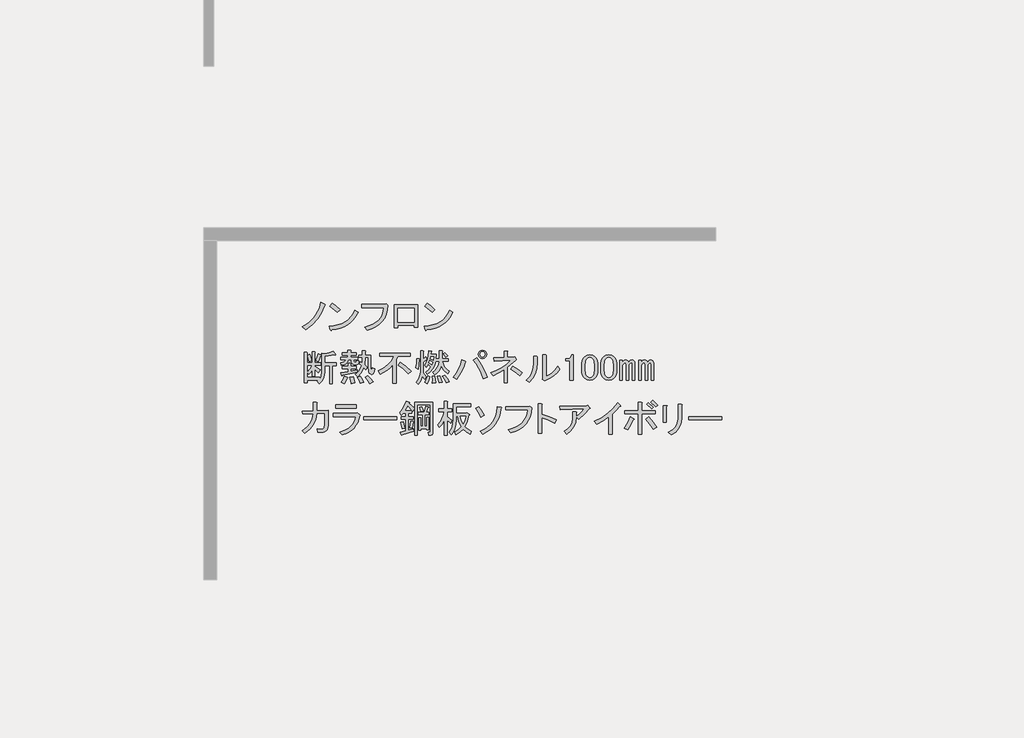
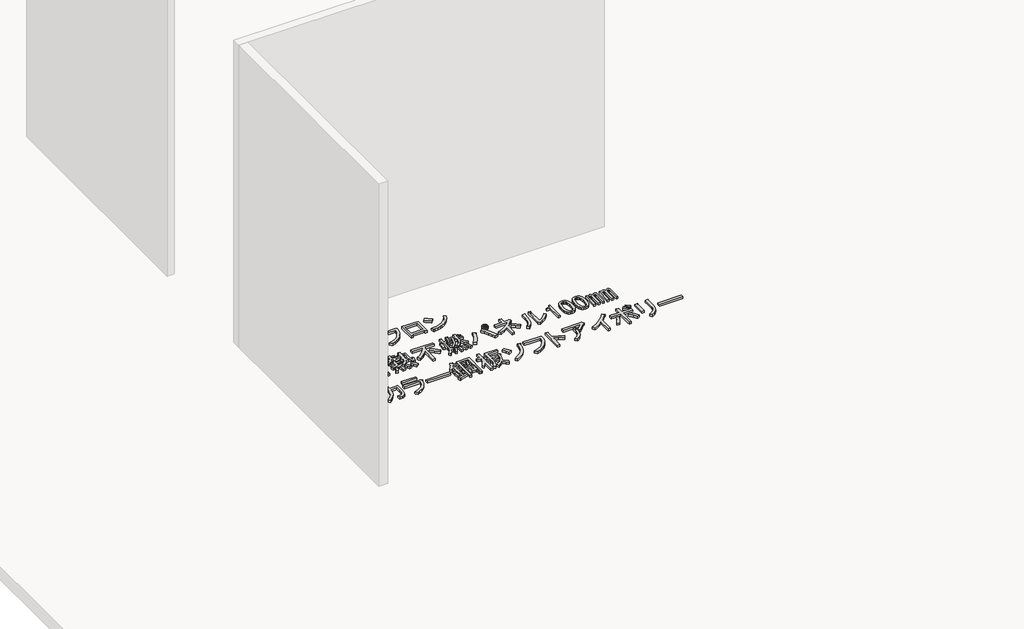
# One storey, part 5 of 117: 1 proxy.
"""IFC4 building model written with IfcOpenShell, lengths in millimetres."""

from ifc_helpers import new_model, si_unit, frame, origin, place, context, project, spatial, polyline, outline, extrude, element, save

model = new_model("IFC4")

# Units and contexts
model_context = context("Model", 3, world=origin())
ifc_project = project(units=[si_unit("LENGTHUNIT", "METRE", prefix="MILLI")], contexts=[model_context])

# Site, building, storey
site = spatial("IfcSite", under=ifc_project)
building = spatial("IfcBuilding", under=site)
storey = spatial("IfcBuildingStorey", under=building, Name="レベル 1", Elevation=500.0)

# Proxy
placement = place(None, origin())
element("IfcBuildingElementProxy", 1, Name="200㎜\u3000MS Pゴシック", ObjectType="200㎜\u3000MS Pゴシック", at=placement, inside=storey, context=model_context, shape_type="SweptSolid", body=[
    extrude(outline(polyline([(-23056.3293015, -32607.0496882), (-23081.9047498, -32666.8215225), (-23110.353844, -32712.7998566), (-23152.0217093, -32758.2034615), (-23201.1610538, -32795.560858), (-23228.7480543, -32773.7211493), (-23181.0455327, -32743.2605029), (-23141.3892195, -32704.7536481), (-23124.0036619, -32680.8305462), (-23108.6296565, -32652.7406577), (-23095.2672031, -32620.4839827), (-23083.9163019, -32584.0605212), (-23052.8809264, -32597.8540214), (-23049.7199159, -32602.4518548), (-23056.3293015, -32607.0496882)])), frame((0.0, 0.0, 500.0), z_axis=(0.0, 0.0, 1.0), x_axis=(1.0, 0.0, 0.0)), (0.0, 0.0, 1.0), 25.0),
    extrude(outline(polyline([(-22956.6022948, -32662.2236891), (-23015.2246708, -32615.0958967), (-22995.6838788, -32590.9572713), (-22968.3842429, -32610.7854279), (-22934.7625862, -32640.3839804), (-22956.6022948, -32662.2236891)])), frame((0.0, 0.0, 500.0), z_axis=(0.0, 0.0, 1.0), x_axis=(1.0, 0.0, 0.0)), (0.0, 0.0, 1.0), 25.0),
    extrude(outline(polyline([(-22794.5286672, -32662.2236891), (-22811.052131, -32691.965924), (-22830.1618761, -32717.9724192), (-22851.8579025, -32740.2431748), (-22876.1402102, -32758.7781907), (-22903.0087992, -32773.577467), (-22932.4636694, -32784.6410036), (-22964.504821, -32791.9688006), (-22999.1322539, -32795.560858), (-23004.8795456, -32803.6070664), (-23010.6268374, -32797.8597747), (-23019.8225042, -32767.9738575), (-22983.9917321, -32765.2977748), (-22951.2142088, -32758.9937141), (-22921.4899342, -32749.0616756), (-22894.8189084, -32735.5016591), (-22871.2011313, -32718.3136646), (-22850.636603, -32697.4976923), (-22833.1253234, -32673.053742), (-22818.6672926, -32644.9818138), (-22794.5286672, -32662.2236891)])), frame((0.0, 0.0, 500.0), z_axis=(0.0, 0.0, 1.0), x_axis=(1.0, 0.0, 0.0)), (0.0, 0.0, 1.0), 25.0),
    extrude(outline(polyline([(-22743.7685864, -32777.1695243), (-22709.985287, -32767.4889298), (-22680.4765359, -32755.1142922), (-22655.242333, -32740.0456116), (-22634.2826783, -32722.282888), (-22617.597572, -32701.8261214), (-22605.1870138, -32678.6753118), (-22597.0510039, -32652.8304591), (-22593.1895423, -32624.2915635), (-22765.6082951, -32624.2915635), (-22765.6082951, -32599.0034798), (-22590.8906256, -32599.0034798), (-22574.7982086, -32595.5551047), (-22562.1541668, -32607.0496882), (-22565.674383, -32643.5449909), (-22573.9361149, -32676.5919185), (-22586.9393625, -32706.1904711), (-22604.6841258, -32732.3406486), (-22627.1704048, -32755.042451), (-22654.3981995, -32774.2958784), (-22686.3675099, -32790.1009308), (-22723.078336, -32802.4576081), (-22743.7685864, -32777.1695243)])), frame((0.0, 0.0, 500.0), z_axis=(0.0, 0.0, 1.0), x_axis=(1.0, 0.0, 0.0)), (0.0, 0.0, 1.0), 25.0),
    extrude(outline(polyline([(-22329.044013, -32776.020066), (-22355.4815551, -32776.020066), (-22355.4815551, -32763.3760241), (-22483.0714321, -32763.3760241), (-22483.0714321, -32781.7673577), (-22509.5089742, -32781.7673577), (-22509.5089742, -32602.4518548), (-22329.044013, -32602.4518548), (-22329.044013, -32776.020066)]), holes=[polyline([(-22483.0714321, -32627.7399386), (-22483.0714321, -32738.0879404), (-22355.4815551, -32738.0879404), (-22355.4815551, -32627.7399386), (-22483.0714321, -32627.7399386)])]), frame((0.0, 0.0, 500.0), z_axis=(0.0, 0.0, 1.0), x_axis=(1.0, 0.0, 0.0)), (0.0, 0.0, 1.0), 25.0),
    extrude(outline(polyline([(-22052.9900951, -32662.2236891), (-22069.5135589, -32691.965924), (-22088.623304, -32717.9724192), (-22110.3193304, -32740.2431748), (-22134.6016381, -32758.7781907), (-22161.4702271, -32773.577467), (-22190.9250974, -32784.6410036), (-22222.9662489, -32791.9688006), (-22257.5936818, -32795.560858), (-22263.3409736, -32803.6070664), (-22269.0882653, -32797.8597747), (-22278.2839321, -32767.9738575), (-22242.4531601, -32765.2977748), (-22209.6756367, -32758.9937141), (-22179.9513622, -32749.0616756), (-22153.2803363, -32735.5016591), (-22129.6625593, -32718.3136646), (-22109.0980309, -32697.4976923), (-22091.5867514, -32673.053742), (-22077.1287205, -32644.9818138), (-22052.9900951, -32662.2236891)])), frame((0.0, 0.0, 500.0), z_axis=(0.0, 0.0, 1.0), x_axis=(1.0, 0.0, 0.0)), (0.0, 0.0, 1.0), 25.0),
    extrude(outline(polyline([(-22215.0637228, -32662.2236891), (-22273.6860987, -32615.0958967), (-22254.1453067, -32590.9572713), (-22226.8456709, -32610.7854279), (-22193.2240141, -32640.3839804), (-22215.0637228, -32662.2236891)])), frame((0.0, 0.0, 500.0), z_axis=(0.0, 0.0, 1.0), x_axis=(1.0, 0.0, 0.0)), (0.0, 0.0, 1.0), 25.0),
    extrude(outline(polyline([(-23122.9978859, -33039.2345221), (-23105.7560106, -32986.3594379), (-23085.0657603, -32992.1067296), (-23083.3415727, -32995.2677401), (-23087.364677, -32997.8540214), (-23104.6065523, -33046.1312722), (-23122.9978859, -33039.2345221)])), frame((0.0, 0.0, 500.0), z_axis=(0.0, 0.0, 1.0), x_axis=(1.0, 0.0, 0.0)), (0.0, 0.0, 1.0), 25.0),
    extrude(outline(polyline([(-22968.9704667, -32990.9572713), (-22970.6946542, -32995.5551047), (-22978.1661335, -32993.256188), (-23055.1798431, -33005.9002299), (-23055.1798431, -33055.326939), (-22963.2231749, -33055.326939), (-22963.2231749, -33077.1666477), (-22994.2585505, -33077.1666477), (-22994.2585505, -33217.4005666), (-23017.2477175, -33217.4005666), (-23017.2477175, -33077.1666477), (-23055.1798431, -33077.1666477), (-23055.1798431, -33126.5933568), (-23057.7661244, -33154.3958807), (-23065.5249683, -33179.1810764), (-23078.4563747, -33200.948944), (-23096.5603438, -33219.6994833), (-23113.8022191, -33200.1586914), (-23103.4570939, -33190.9630245), (-23193.1148454, -33190.9630245), (-23193.1148454, -33212.8027332), (-23216.1040124, -33212.8027332), (-23216.1040124, -32973.715396), (-23194.2643037, -32973.715396), (-23189.3791057, -32976.0143127), (-23193.1148454, -32980.6121461), (-23193.1148454, -33056.4763974), (-23150.5848863, -33056.4763974), (-23150.5848863, -32969.1175626), (-23132.1935527, -32969.1175626), (-23127.3083547, -32971.4164793), (-23131.0440943, -32976.0143127), (-23131.0440943, -33056.4763974), (-23087.364677, -33056.4763974), (-23087.364677, -33074.867731), (-23131.0440943, -33074.867731), (-23131.0440943, -33084.0633978), (-23090.813052, -33110.5009399), (-23104.6065523, -33132.3406486), (-23131.0440943, -33105.9031065), (-23131.0440943, -33158.7781907), (-23150.5848863, -33158.7781907), (-23150.5848863, -33110.5009399), (-23163.8036574, -33130.3290965), (-23178.1718868, -33146.1341488), (-23190.8159287, -33127.7428152), (-23168.97622, -33103.6041898), (-23151.7343447, -33074.867731), (-23193.1148454, -33074.867731), (-23193.1148454, -33169.1233159), (-23095.4108854, -33169.1233159), (-23095.4108854, -33182.9168161), (-23082.479479, -33158.7781907), (-23078.1690102, -33125.4438985), (-23078.1690102, -32980.6121461), (-23056.3293015, -32986.3594379), (-23020.1213634, -32978.8879586), (-22989.660717, -32965.6691875), (-22968.9704667, -32990.9572713)])), frame((0.0, 0.0, 500.0), z_axis=(0.0, 0.0, 1.0), x_axis=(1.0, 0.0, 0.0)), (0.0, 0.0, 1.0), 25.0),
    extrude(outline(polyline([(-23177.0224284, -33047.2807305), (-23189.6664703, -32996.7045631), (-23170.1256783, -32989.8078129), (-23162.3668344, -33013.9464383), (-23157.4816364, -33040.3839804), (-23177.0224284, -33047.2807305)])), frame((0.0, 0.0, 500.0), z_axis=(0.0, 0.0, 1.0), x_axis=(1.0, 0.0, 0.0)), (0.0, 0.0, 1.0), 25.0),
    extrude(outline(polyline([(-22878.1632569, -33167.9738575), (-22874.7148818, -33172.8590555), (-22880.4621736, -33176.020066), (-22890.2325696, -33201.5955143), (-22901.1524239, -33220.8489417), (-22924.141591, -33209.3543582), (-22911.4975491, -33185.790462), (-22901.1524239, -33158.7781907), (-22878.1632569, -33167.9738575)])), frame((0.0, 0.0, 500.0), z_axis=(0.0, 0.0, 1.0), x_axis=(1.0, 0.0, 0.0)), (0.0, 0.0, 1.0), 25.0),
    extrude(outline(polyline([(-22833.3343812, -33163.3760241), (-22823.2766206, -33190.67566), (-22818.3914226, -33212.8027332), (-22847.1278814, -33218.550025), (-22849.7141627, -33196.9976809), (-22857.4730066, -33166.8243992), (-22833.3343812, -33163.3760241)])), frame((0.0, 0.0, 500.0), z_axis=(0.0, 0.0, 1.0), x_axis=(1.0, 0.0, 0.0)), (0.0, 0.0, 1.0), 25.0),
    extrude(outline(polyline([(-22718.388546, -33157.6287323), (-22693.6751914, -33178.8937119), (-22674.7091286, -33203.6070664), (-22701.1466707, -33218.550025), (-22720.4000981, -33188.9514724), (-22739.0787963, -33169.1233159), (-22718.388546, -33157.6287323)])), frame((0.0, 0.0, 500.0), z_axis=(0.0, 0.0, 1.0), x_axis=(1.0, 0.0, 0.0)), (0.0, 0.0, 1.0), 25.0),
    extrude(outline(polyline([(-22777.0109219, -33216.2511083), (-22785.344495, -33191.5377537), (-22798.8506306, -33170.2727742), (-22778.1603803, -33162.2265657), (-22761.2058696, -33183.7789098), (-22749.4239215, -33207.0554415), (-22777.0109219, -33216.2511083)])), frame((0.0, 0.0, 500.0), z_axis=(0.0, 0.0, 1.0), x_axis=(1.0, 0.0, 0.0)), (0.0, 0.0, 1.0), 25.0),
    extrude(outline(polyline([(-22916.0953825, -33153.0308989), (-22918.1069346, -33157.9160969), (-22921.8426743, -33156.479274), (-22927.589966, -33132.3406486), (-22872.4159651, -33124.2944401), (-22872.4159651, -33101.3052731), (-22916.0953825, -33101.3052731), (-22916.0953825, -33082.9139395), (-22872.4159651, -33082.9139395), (-22872.4159651, -33059.9247724), (-22854.0246315, -33059.9247724), (-22849.1394335, -33062.2236891), (-22852.8751732, -33066.8215225), (-22852.8751732, -33082.9139395), (-22808.0462974, -33082.9139395), (-22808.0462974, -33101.3052731), (-22852.8751732, -33101.3052731), (-22852.8751732, -33120.8460651), (-22802.2990057, -33111.6503983), (-22802.2990057, -33127.7428152), (-22916.0953825, -33153.0308989)])), frame((0.0, 0.0, 500.0), z_axis=(0.0, 0.0, 1.0), x_axis=(1.0, 0.0, 0.0)), (0.0, 0.0, 1.0), 25.0),
    extrude(outline(polyline([(-22845.978423, -33031.1883136), (-22871.2665068, -33031.1883136), (-22875.8643402, -33048.6457123), (-22886.2094654, -33061.9363245), (-22902.3018823, -33071.0601502), (-22924.141591, -33076.0171893), (-22928.7394244, -33056.4763974), (-22903.4513406, -33047.8554597), (-22895.9798614, -33040.5276627), (-22891.9567571, -33031.1883136), (-22927.589966, -33031.1883136), (-22927.589966, -33012.79698), (-22873.5654235, -33012.79698), (-22873.5654235, -32995.5551047), (-22917.2448409, -32995.5551047), (-22917.2448409, -32977.1637711), (-22873.5654235, -32977.1637711), (-22873.5654235, -32958.7724374), (-22851.7257148, -32958.7724374), (-22846.8405168, -32961.0713541), (-22850.5762564, -32965.6691875), (-22850.5762564, -32977.1637711), (-22808.0462974, -32977.1637711), (-22808.0462974, -32995.5551047), (-22850.5762564, -32995.5551047), (-22850.5762564, -33012.79698), (-22797.7011723, -33012.79698), (-22797.7011723, -33031.1883136), (-22826.4376311, -33031.1883136), (-22826.4376311, -33043.8323555), (-22825.0008081, -33049.0049181), (-22820.6903393, -33050.7291056), (-22810.3452141, -33050.7291056), (-22806.6094745, -33047.5680951), (-22806.8968391, -33038.0850637), (-22787.3560471, -33040.3839804), (-22790.229693, -33061.9363245), (-22795.5459378, -33067.3244106), (-22803.448464, -33069.1204392), (-22827.5870894, -33069.1204392), (-22841.3805896, -33064.2352412), (-22845.978423, -33049.5796472), (-22845.978423, -33031.1883136)])), frame((0.0, 0.0, 500.0), z_axis=(0.0, 0.0, 1.0), x_axis=(1.0, 0.0, 0.0)), (0.0, 0.0, 1.0), 25.0),
    extrude(outline(polyline([(-22714.9401709, -33013.9464383), (-22736.7798796, -33013.9464383), (-22741.377713, -33071.4193559), (-22721.836921, -33089.8106896), (-22732.1820462, -33111.6503983), (-22748.2744631, -33095.5579813), (-22767.5278905, -33133.2027424), (-22797.7011723, -33165.6749408), (-22814.9430475, -33144.9846905), (-22799.8564067, -33133.0590601), (-22786.7813179, -33117.9724192), (-22775.7177813, -33099.7247679), (-22766.6657967, -33078.316106), (-22783.907672, -33063.3731475), (-22775.8614636, -33046.1312722), (-22762.0679633, -33056.4763974), (-22759.7690466, -33013.9464383), (-22787.3560471, -33013.9464383), (-22787.3560471, -32995.5551047), (-22759.7690466, -32995.5551047), (-22759.7690466, -32961.0713541), (-22737.9293379, -32961.0713541), (-22733.04414, -32963.3702708), (-22736.7798796, -32967.9681043), (-22736.7798796, -32995.5551047), (-22695.3993789, -32995.5551047), (-22695.3993789, -33092.1096063), (-22691.9510039, -33116.2482317), (-22688.7181523, -33118.2597838), (-22685.9163475, -33115.0987733), (-22681.6058787, -33093.2590646), (-22662.0650867, -33100.1558147), (-22666.591079, -33126.9525626), (-22674.421764, -33142.9731384), (-22685.5571418, -33148.2175421), (-22699.9972123, -33142.6857738), (-22706.5347567, -33135.3579768), (-22711.2044313, -33123.719711), (-22714.9401709, -33087.5117729), (-22714.9401709, -33013.9464383)])), frame((0.0, 0.0, 500.0), z_axis=(0.0, 0.0, 1.0), x_axis=(1.0, 0.0, 0.0)), (0.0, 0.0, 1.0), 25.0),
    extrude(outline(polyline([(-22626.4318778, -32980.6121461), (-22385.0456239, -32980.6121461), (-22385.0456239, -33005.9002299), (-22485.0485005, -33005.9002299), (-22495.3936257, -33030.0388553), (-22495.3936257, -33216.2511083), (-22521.8311678, -33216.2511083), (-22521.8311678, -33069.1204392), (-22542.6651004, -33092.3969709), (-22566.0853143, -33112.7998566), (-22592.0918095, -33130.3290965), (-22620.684586, -33144.9846905), (-22636.777003, -33118.5471484), (-22597.192531, -33098.1442626), (-22563.499033, -33072.5688143), (-22535.6965091, -33041.8208034), (-22513.7849593, -33005.9002299), (-22626.4318778, -33005.9002299), (-22626.4318778, -32980.6121461)])), frame((0.0, 0.0, 500.0), z_axis=(0.0, 0.0, 1.0), x_axis=(1.0, 0.0, 0.0)), (0.0, 0.0, 1.0), 25.0),
    extrude(outline(polyline([(-22399.9885824, -33141.5363154), (-22439.0701664, -33103.3168252), (-22480.4506671, -33073.7182726), (-22464.3582502, -33053.0280223), (-22420.6788328, -33081.1897519), (-22379.2983321, -33119.6966067), (-22399.9885824, -33141.5363154)])), frame((0.0, 0.0, 500.0), z_axis=(0.0, 0.0, 1.0), x_axis=(1.0, 0.0, 0.0)), (0.0, 0.0, 1.0), 25.0),
    extrude(outline(polyline([(-22232.167663, -33163.3760241), (-22240.7886007, -33193.8366704), (-22255.1568301, -33220.8489417), (-22274.6976221, -33208.2048998), (-22260.6167573, -33183.4915453), (-22250.5589967, -33155.3298156), (-22232.167663, -33163.3760241)])), frame((0.0, 0.0, 500.0), z_axis=(0.0, 0.0, 1.0), x_axis=(1.0, 0.0, 0.0)), (0.0, 0.0, 1.0), 25.0),
    extrude(outline(polyline([(-22317.2275811, -33025.4410219), (-22312.6297477, -33027.7399386), (-22317.2275811, -33032.337772), (-22318.3770395, -33071.9940851), (-22324.1243312, -33105.9031065), (-22342.5156648, -33093.2590646), (-22336.7683731, -33058.7753141), (-22335.6189147, -33021.9926468), (-22317.2275811, -33025.4410219)])), frame((0.0, 0.0, 500.0), z_axis=(0.0, 0.0, 1.0), x_axis=(1.0, 0.0, 0.0)), (0.0, 0.0, 1.0), 25.0),
    extrude(outline(polyline([(-22265.5019553, -33007.0496882), (-22256.3062884, -33024.2915635), (-22254.8694655, -33030.3262199), (-22259.7546635, -33030.0388553), (-22286.1922056, -33050.7291056), (-22286.1922056, -33134.6395653), (-22272.3987054, -33146.9962426), (-22260.9041219, -33163.3760241), (-22273.5481637, -33184.0662744), (-22291.9394974, -33158.7781907), (-22303.7214455, -33194.6987642), (-22325.2737896, -33224.2973168), (-22340.2167481, -33205.9059831), (-22325.1301073, -33187.1554438), (-22314.3539352, -33166.5370346), (-22307.888232, -33144.0507556), (-22305.7329976, -33119.6966067), (-22305.7329976, -32962.2208125), (-22287.3416639, -32962.2208125), (-22282.456466, -32964.5197292), (-22286.1922056, -32969.1175626), (-22286.1922056, -33027.7399386), (-22265.5019553, -33007.0496882)])), frame((0.0, 0.0, 500.0), z_axis=(0.0, 0.0, 1.0), x_axis=(1.0, 0.0, 0.0)), (0.0, 0.0, 1.0), 25.0),
    extrude(outline(polyline([(-22114.9229111, -32976.0143127), (-22093.0832025, -33000.1529381), (-22110.3250777, -33011.6475216), (-22116.9344633, -33000.1529381), (-22129.8658697, -32986.3594379), (-22114.9229111, -32976.0143127)])), frame((0.0, 0.0, 500.0), z_axis=(0.0, 0.0, 1.0), x_axis=(1.0, 0.0, 0.0)), (0.0, 0.0, 1.0), 25.0),
    extrude(outline(polyline([(-22104.577786, -33212.8027332), (-22117.796557, -33184.6410036), (-22134.4637031, -33159.927649), (-22116.0723695, -33151.8814406), (-22097.1063067, -33174.8706076), (-22081.5886189, -33202.4576081), (-22104.577786, -33212.8027332)])), frame((0.0, 0.0, 500.0), z_axis=(0.0, 0.0, 1.0), x_axis=(1.0, 0.0, 0.0)), (0.0, 0.0, 1.0), 25.0),
    extrude(outline(polyline([(-22154.0044951, -33157.6287323), (-22135.6131615, -33207.0554415), (-22159.7517869, -33211.6532749), (-22173.5452871, -33161.0771074), (-22154.0044951, -33157.6287323)])), frame((0.0, 0.0, 500.0), z_axis=(0.0, 0.0, 1.0), x_axis=(1.0, 0.0, 0.0)), (0.0, 0.0, 1.0), 25.0),
    extrude(outline(polyline([(-22212.6268711, -33215.1016499), (-22212.0521419, -33188.0893787), (-22214.9257878, -33159.927649), (-22195.3849958, -33158.7781907), (-22189.0629748, -33184.9283682), (-22188.4882457, -33212.8027332), (-22212.6268711, -33215.1016499)])), frame((0.0, 0.0, 500.0), z_axis=(0.0, 0.0, 1.0), x_axis=(1.0, 0.0, 0.0)), (0.0, 0.0, 1.0), 25.0),
    extrude(outline(polyline([(-22093.0832025, -33142.6857738), (-22123.8312134, -33112.2251274), (-22144.8088283, -33078.316106), (-22153.2142425, -33100.4431793), (-22164.6369849, -33119.6966067), (-22179.0770554, -33136.0763882), (-22196.5344541, -33149.5825239), (-22210.3279544, -33131.1911902), (-22189.4940217, -33112.2969686), (-22174.1200163, -33091.2475125), (-22164.205938, -33068.042822), (-22159.7517869, -33042.6828971), (-22188.4882457, -33042.6828971), (-22196.462613, -33073.2872258), (-22210.0405898, -33100.7305439), (-22229.222176, -33125.0128516), (-22254.0073717, -33146.1341488), (-22266.6514136, -33130.0417319), (-22240.7886007, -33108.4893878), (-22225.2709129, -33087.5117729), (-22247.1106216, -33067.9709809), (-22260.9041219, -33088.6612312), (-22274.6976221, -33073.7182726), (-22262.2691036, -33054.6803687), (-22252.5705488, -33029.7514907), (-22245.6019575, -32998.9316386), (-22241.3633299, -32962.2208125), (-22220.6730795, -32964.5197292), (-22217.2247045, -32967.1060105), (-22222.9719962, -32970.267021), (-22225.2709129, -32988.6583546), (-22181.5914956, -32988.6583546), (-22185.0398706, -33024.2915635), (-22159.7517869, -33024.2915635), (-22159.7517869, -32962.2208125), (-22137.9120782, -32962.2208125), (-22133.0268802, -32964.5197292), (-22136.7626198, -32969.1175626), (-22136.7626198, -33024.2915635), (-22087.3359107, -33024.2915635), (-22087.3359107, -33042.6828971), (-22136.7626198, -33042.6828971), (-22130.2250755, -33064.4507647), (-22118.6586508, -33084.9254916), (-22102.0633458, -33104.1070778), (-22080.4391606, -33121.9955234), (-22093.0832025, -33142.6857738)]), holes=[polyline([(-22217.2247045, -33072.5688143), (-22210.3279544, -33053.0280223), (-22235.6160381, -33036.9356054), (-22241.3633299, -33054.1774807), (-22217.2247045, -33072.5688143)]), polyline([(-22227.5698296, -33007.0496882), (-22231.0182047, -33023.1421052), (-22205.730121, -33036.9356054), (-22201.1322875, -33007.0496882), (-22227.5698296, -33007.0496882)])]), frame((0.0, 0.0, 500.0), z_axis=(0.0, 0.0, 1.0), x_axis=(1.0, 0.0, 0.0)), (0.0, 0.0, 1.0), 25.0),
    extrude(outline(polyline([(-21867.7893655, -33016.245355), (-21841.1362999, -33052.9561812), (-21818.6500209, -33090.6727833), (-21800.3305284, -33129.3951616), (-21786.1778225, -33169.1233159), (-21817.213198, -33179.468441), (-21832.6590446, -33136.3637528), (-21850.2601256, -33097.856898), (-21870.016441, -33063.9478766), (-21891.9279908, -33034.6366887), (-21867.7893655, -33016.245355)])), frame((0.0, 0.0, 500.0), z_axis=(0.0, 0.0, 1.0), x_axis=(1.0, 0.0, 0.0)), (0.0, 0.0, 1.0), 25.0),
    extrude(outline(polyline([(-21955.1482002, -33042.6828971), (-21951.125096, -33048.1428243), (-21957.4471169, -33053.0280223), (-21969.3727473, -33088.4457078), (-21984.4593882, -33122.282888), (-22002.7070395, -33154.539563), (-22024.1157013, -33185.2157328), (-22050.5532434, -33167.9738575), (-22027.3485529, -33136.5074351), (-22008.310649, -33103.0294606), (-21993.4395316, -33067.539934), (-21982.7352007, -33030.0388553), (-21955.1482002, -33042.6828971)])), frame((0.0, 0.0, 500.0), z_axis=(0.0, 0.0, 1.0), x_axis=(1.0, 0.0, 0.0)), (0.0, 0.0, 1.0), 25.0),
    extrude(outline(polyline([(-21821.8110314, -33021.9926468), (-21834.4550732, -33019.6937301), (-21844.8001984, -33012.79698), (-21851.6969485, -33002.4518548), (-21853.9958652, -32989.8078129), (-21851.6969485, -32977.1637711), (-21844.8001984, -32966.8186459), (-21834.4550732, -32959.9218958), (-21821.8110314, -32957.6229791), (-21809.1669895, -32959.9218958), (-21798.8218643, -32966.8186459), (-21791.9251142, -32977.1637711), (-21789.6261975, -32989.8078129), (-21791.9251142, -33002.4518548), (-21798.8218643, -33012.79698), (-21809.1669895, -33019.6937301), (-21821.8110314, -33021.9926468)]), holes=[polyline([(-21821.8110314, -33010.4980633), (-21813.4774583, -33009.0612403), (-21806.8680728, -33004.7507715), (-21802.557604, -32998.141386), (-21801.120781, -32989.8078129), (-21802.557604, -32981.4742399), (-21806.8680728, -32974.8648544), (-21813.4774583, -32970.5543855), (-21821.8110314, -32969.1175626), (-21830.1446044, -32970.5543855), (-21836.7539899, -32974.8648544), (-21841.0644588, -32981.4742399), (-21842.5012817, -32989.8078129), (-21841.0644588, -32998.141386), (-21836.7539899, -33004.7507715), (-21830.1446044, -33009.0612403), (-21821.8110314, -33010.4980633)])]), frame((0.0, 0.0, 500.0), z_axis=(0.0, 0.0, 1.0), x_axis=(1.0, 0.0, 0.0)), (0.0, 0.0, 1.0), 25.0),
    extrude(outline(polyline([(-21578.1258607, -33011.6475216), (-21571.2291106, -33009.3486049), (-21558.5850688, -33026.5904802), (-21557.4356104, -33032.6251366), (-21563.1829022, -33034.6366887), (-21626.4031115, -33090.9601479), (-21626.4031115, -33211.6532749), (-21652.8406536, -33211.6532749), (-21652.8406536, -33109.3514816), (-21693.0716959, -33133.4901069), (-21737.9005717, -33155.3298156), (-21757.4413637, -33134.6395653), (-21711.8940765, -33115.1706145), (-21670.6572581, -33092.3969709), (-21633.7309085, -33066.3186345), (-21601.1150278, -33036.9356054), (-21731.0038216, -33042.6828971), (-21734.4521966, -33017.3948134), (-21652.8406536, -33015.0958967), (-21652.8406536, -32963.3702708), (-21629.8514866, -32963.3702708), (-21623.8168302, -32966.8186459), (-21626.4031115, -32972.5659377), (-21626.4031115, -33013.9464383), (-21578.1258607, -33011.6475216)])), frame((0.0, 0.0, 500.0), z_axis=(0.0, 0.0, 1.0), x_axis=(1.0, 0.0, 0.0)), (0.0, 0.0, 1.0), 25.0),
    extrude(outline(polyline([(-21532.1475267, -33155.3298156), (-21569.2175585, -33126.0186277), (-21602.2644861, -33104.7536481), (-21585.0226108, -33082.9139395), (-21546.2283915, -33106.1904711), (-21512.6067347, -33132.3406486), (-21532.1475267, -33155.3298156)])), frame((0.0, 0.0, 500.0), z_axis=(0.0, 0.0, 1.0), x_axis=(1.0, 0.0, 0.0)), (0.0, 0.0, 1.0), 25.0),
    extrude(outline(polyline([(-21325.1530666, -33162.2265657), (-21300.3678709, -33150.0135708), (-21276.5884512, -33132.9153778), (-21253.8148076, -33110.9319868), (-21232.0469401, -33084.0633978), (-21215.9545232, -33105.9031065), (-21239.2310548, -33133.7056304), (-21265.3812323, -33157.3413678), (-21294.4050557, -33176.8103186), (-21326.302525, -33192.1124829), (-21335.4981918, -33196.7103163), (-21353.8895254, -33182.9168161), (-21351.5906087, -33177.1695243), (-21351.5906087, -32992.1067296), (-21327.4519833, -32992.1067296), (-21321.7046916, -32995.5551047), (-21325.1530666, -33001.3023965), (-21325.1530666, -33162.2265657)])), frame((0.0, 0.0, 500.0), z_axis=(0.0, 0.0, 1.0), x_axis=(1.0, 0.0, 0.0)), (0.0, 0.0, 1.0), 25.0),
    extrude(outline(polyline([(-21479.1804858, -33193.2619413), (-21454.0360843, -33164.0225944), (-21436.0757976, -33131.4785548), (-21425.2996255, -33095.6298225), (-21421.7075682, -33056.4763974), (-21421.7075682, -33004.7507715), (-21397.5689428, -33004.7507715), (-21391.821651, -33008.1991466), (-21395.2700261, -33013.9464383), (-21395.2700261, -33055.326939), (-21399.0776069, -33101.0897496), (-21410.5003493, -33141.82368), (-21429.5382532, -33177.5287301), (-21456.1913188, -33208.2048998), (-21479.1804858, -33193.2619413)])), frame((0.0, 0.0, 500.0), z_axis=(0.0, 0.0, 1.0), x_axis=(1.0, 0.0, 0.0)), (0.0, 0.0, 1.0), 25.0),
    extrude(outline(polyline([(-21136.6418969, -33015.0958967), (-21128.5956884, -33004.1760423), (-21125.1473134, -32992.1067296), (-21111.3538131, -32992.1067296), (-21111.3538131, -33190.9630245), (-21137.7913552, -33190.9630245), (-21137.7913552, -33038.0850637), (-21172.2751058, -33038.0850637), (-21172.2751058, -33024.2915635), (-21161.9299806, -33024.2915635), (-21147.5617512, -33021.9926468), (-21136.6418969, -33015.0958967)])), frame((0.0, 0.0, 500.0), z_axis=(0.0, 0.0, 1.0), x_axis=(1.0, 0.0, 0.0)), (0.0, 0.0, 1.0), 25.0),
    extrude(outline(polyline([(-21045.8346871, -33081.7644811), (-21044.3978641, -33058.2005849), (-21040.0873953, -33038.0850637), (-21032.9032806, -33021.4179176), (-21022.84552, -33008.1991466), (-21004.741551, -32996.1298339), (-20982.6144777, -32992.1067296), (-20960.4874044, -32996.1298339), (-20942.3834354, -33008.1991466), (-20932.3256748, -33021.4179176), (-20925.1415601, -33038.0850637), (-20920.8310913, -33058.2005849), (-20919.3942683, -33081.7644811), (-20919.3942683, -33104.7536481), (-20920.8310913, -33127.8146563), (-20925.1415601, -33147.5709718), (-20932.3256748, -33164.0225944), (-20942.3834354, -33177.1695243), (-20960.4874044, -33189.238837), (-20982.6144777, -33193.2619413), (-21004.741551, -33189.238837), (-21022.84552, -33177.1695243), (-21032.9032806, -33164.0225944), (-21040.0873953, -33147.5709718), (-21044.3978641, -33127.8146563), (-21045.8346871, -33104.7536481), (-21045.8346871, -33081.7644811)]), holes=[polyline([(-20982.6144777, -33013.9464383), (-20993.5343321, -33016.245355), (-21003.304728, -33023.1421052), (-21009.8422724, -33032.2659308), (-21014.511947, -33044.6944493), (-21018.2476866, -33079.4655644), (-21018.2476866, -33105.9031065), (-21014.2245824, -33140.0994925), (-21009.1957021, -33152.6716932), (-21002.1552697, -33162.2265657), (-20992.6722383, -33169.1233159), (-20982.6144777, -33171.4222326), (-20971.6946234, -33169.1233159), (-20961.9242274, -33162.2265657), (-20955.386683, -33153.1027401), (-20950.7170084, -33140.6742216), (-20946.9812688, -33105.9031065), (-20946.9812688, -33079.4655644), (-20950.7170084, -33044.6944493), (-20955.386683, -33032.2659308), (-20961.9242274, -33023.1421052), (-20971.6946234, -33016.245355), (-20982.6144777, -33013.9464383)])]), frame((0.0, 0.0, 500.0), z_axis=(0.0, 0.0, 1.0), x_axis=(1.0, 0.0, 0.0)), (0.0, 0.0, 1.0), 25.0),
    extrude(outline(polyline([(-20898.704018, -33081.7644811), (-20897.2671951, -33058.2005849), (-20892.9567263, -33038.0850637), (-20885.7726116, -33021.4179176), (-20875.714851, -33008.1991466), (-20857.6108819, -32996.1298339), (-20835.4838086, -32992.1067296), (-20813.3567354, -32996.1298339), (-20795.2527663, -33008.1991466), (-20785.1950057, -33021.4179176), (-20778.010891, -33038.0850637), (-20773.7004222, -33058.2005849), (-20772.2635993, -33081.7644811), (-20772.2635993, -33104.7536481), (-20773.7004222, -33127.8146563), (-20778.010891, -33147.5709718), (-20785.1950057, -33164.0225944), (-20795.2527663, -33177.1695243), (-20813.3567354, -33189.238837), (-20835.4838086, -33193.2619413), (-20857.6108819, -33189.238837), (-20875.714851, -33177.1695243), (-20885.7726116, -33164.0225944), (-20892.9567263, -33147.5709718), (-20897.2671951, -33127.8146563), (-20898.704018, -33104.7536481), (-20898.704018, -33081.7644811)]), holes=[polyline([(-20835.4838086, -33013.9464383), (-20846.403663, -33016.245355), (-20856.174059, -33023.1421052), (-20862.7116034, -33032.2659308), (-20867.3812779, -33044.6944493), (-20871.1170176, -33079.4655644), (-20871.1170176, -33105.9031065), (-20867.0939133, -33140.0994925), (-20862.065033, -33152.6716932), (-20855.0246006, -33162.2265657), (-20845.5415692, -33169.1233159), (-20835.4838086, -33171.4222326), (-20824.5639543, -33169.1233159), (-20814.7935583, -33162.2265657), (-20808.2560139, -33153.1027401), (-20803.5863394, -33140.6742216), (-20799.8505997, -33105.9031065), (-20799.8505997, -33079.4655644), (-20803.5863394, -33044.6944493), (-20808.2560139, -33032.2659308), (-20814.7935583, -33023.1421052), (-20824.5639543, -33016.245355), (-20835.4838086, -33013.9464383)])]), frame((0.0, 0.0, 500.0), z_axis=(0.0, 0.0, 1.0), x_axis=(1.0, 0.0, 0.0)), (0.0, 0.0, 1.0), 25.0),
    extrude(outline(polyline([(-20727.4347236, -33193.2619413), (-20746.9755155, -33193.2619413), (-20746.9755155, -33035.786147), (-20727.4347236, -33035.786147), (-20727.4347236, -33053.0280223), (-20715.3654109, -33037.5103346), (-20702.1466398, -33032.337772), (-20692.950973, -33033.7745949), (-20686.0542229, -33038.0850637), (-20679.1574728, -33051.878564), (-20666.2260663, -33037.22297), (-20652.7199307, -33032.337772), (-20644.3863576, -33033.7745949), (-20637.7769721, -33038.0850637), (-20632.6044095, -33046.7060014), (-20630.880222, -33058.7753141), (-20630.880222, -33193.2619413), (-20650.421014, -33193.2619413), (-20650.421014, -33069.1204392), (-20653.0072953, -33059.6374078), (-20660.7661391, -33056.4763974), (-20671.1112643, -33061.0742308), (-20677.1459207, -33069.6951684), (-20679.1574728, -33079.4655644), (-20679.1574728, -33193.2619413), (-20698.6982648, -33193.2619413), (-20698.6982648, -33069.1204392), (-20701.284546, -33059.6374078), (-20709.0433899, -33056.4763974), (-20719.3885151, -33061.0742308), (-20725.4231714, -33069.6951684), (-20727.4347236, -33079.4655644), (-20727.4347236, -33193.2619413)])), frame((0.0, 0.0, 500.0), z_axis=(0.0, 0.0, 1.0), x_axis=(1.0, 0.0, 0.0)), (0.0, 0.0, 1.0), 25.0),
    extrude(outline(polyline([(-20505.5892616, -33032.337772), (-20497.2556886, -33033.7745949), (-20490.646303, -33038.0850637), (-20485.4737405, -33046.7060014), (-20483.7495529, -33058.7753141), (-20483.7495529, -33193.2619413), (-20503.2903449, -33193.2619413), (-20503.2903449, -33069.1204392), (-20505.8766262, -33059.6374078), (-20513.6354701, -33056.4763974), (-20523.9805952, -33061.0742308), (-20530.0152516, -33069.6951684), (-20532.0268037, -33079.4655644), (-20532.0268037, -33193.2619413), (-20551.5675957, -33193.2619413), (-20551.5675957, -33069.1204392), (-20554.153877, -33059.6374078), (-20561.9127209, -33056.4763974), (-20572.257846, -33061.0742308), (-20578.2925024, -33069.6951684), (-20580.3040545, -33079.4655644), (-20580.3040545, -33193.2619413), (-20599.8448465, -33193.2619413), (-20599.8448465, -33035.786147), (-20580.3040545, -33035.786147), (-20580.3040545, -33053.0280223), (-20568.2347418, -33037.5103346), (-20555.0159708, -33032.337772), (-20545.8203039, -33033.7745949), (-20538.9235538, -33038.0850637), (-20532.0268037, -33051.878564), (-20519.0953972, -33037.22297), (-20505.5892616, -33032.337772)])), frame((0.0, 0.0, 500.0), z_axis=(0.0, 0.0, 1.0), x_axis=(1.0, 0.0, 0.0)), (0.0, 0.0, 1.0), 25.0),
    extrude(outline(polyline([(-23052.8809264, -33450.7291056), (-23118.4000525, -33453.0280223), (-23126.6617844, -33499.293721), (-23144.55023, -33540.3868571), (-23172.0653893, -33576.3074306), (-23209.2072623, -33607.0554415), (-23228.7480543, -33587.5146495), (-23193.7614157, -33559.2810787), (-23168.1141262, -33527.4554506), (-23151.8061858, -33492.0377651), (-23144.8375946, -33453.0280223), (-23226.4491376, -33455.326939), (-23228.7480543, -33432.337772), (-23143.6881362, -33430.0388553), (-23143.6881362, -33365.6691875), (-23119.5495108, -33365.6691875), (-23112.6527607, -33369.1175626), (-23117.2505941, -33374.8648544), (-23117.2505941, -33430.0388553), (-23026.4433843, -33426.5904802), (-23026.4433843, -33497.856898), (-23029.0296656, -33545.8467842), (-23036.7885095, -33577.1695243), (-23043.397895, -33587.2272849), (-23052.8809264, -33594.4113996), (-23065.2376037, -33598.7218684), (-23080.4679269, -33600.1586914), (-23108.0549273, -33600.1586914), (-23111.5033024, -33571.4222326), (-23081.6173852, -33573.7211493), (-23067.5365204, -33570.8475034), (-23059.7776765, -33562.2265657), (-23054.6051139, -33536.938482), (-23052.8809264, -33497.856898), (-23052.8809264, -33450.7291056)])), frame((0.0, 0.0, 500.0), z_axis=(0.0, 0.0, 1.0), x_axis=(1.0, 0.0, 0.0)), (0.0, 0.0, 1.0), 25.0),
    extrude(outline(polyline([(-22938.0270479, -33596.7103163), (-22888.3848153, -33578.3908238), (-22868.1435721, -33566.2676303), (-22850.9555777, -33552.1688052), (-22836.820832, -33536.0943485), (-22825.7393351, -33518.0442603), (-22817.7110869, -33498.0185406), (-22812.7360875, -33476.0171893), (-22987.453757, -33476.0171893), (-22987.453757, -33450.7291056), (-22811.5866291, -33450.7291056), (-22801.241504, -33447.2807305), (-22780.5512536, -33459.9247724), (-22777.6776078, -33465.3846996), (-22782.8501703, -33470.2698976), (-22788.9746281, -33497.7491363), (-22798.1523347, -33522.7139349), (-22810.3832899, -33545.1642933), (-22825.667494, -33565.1002116), (-22844.0049467, -33582.5216898), (-22865.3956483, -33597.4287278), (-22889.8395985, -33609.8213256), (-22917.3367975, -33619.6994833), (-22938.0270479, -33596.7103163)])), frame((0.0, 0.0, 500.0), z_axis=(0.0, 0.0, 1.0), x_axis=(1.0, 0.0, 0.0)), (0.0, 0.0, 1.0), 25.0),
    extrude(outline(polyline([(-22808.1382541, -33410.4980633), (-22966.7635067, -33410.4980633), (-22966.7635067, -33385.2099795), (-22808.1382541, -33385.2099795), (-22808.1382541, -33410.4980633)])), frame((0.0, 0.0, 500.0), z_axis=(0.0, 0.0, 1.0), x_axis=(1.0, 0.0, 0.0)), (0.0, 0.0, 1.0), 25.0),
    extrude(outline(polyline([(-22749.1020731, -33501.3052731), (-22749.1020731, -33476.0171893), (-22492.7728606, -33476.0171893), (-22492.7728606, -33501.3052731), (-22749.1020731, -33501.3052731)])), frame((0.0, 0.0, 500.0), z_axis=(0.0, 0.0, 1.0), x_axis=(1.0, 0.0, 0.0)), (0.0, 0.0, 1.0), 25.0),
    extrude(outline(polyline([(-22297.6408108, -33397.8540214), (-22290.4566961, -33413.0843446), (-22284.9967689, -33433.4872303), (-22302.2386442, -33439.2345221), (-22313.7332277, -33402.4518548), (-22297.6408108, -33397.8540214)])), frame((0.0, 0.0, 500.0), z_axis=(0.0, 0.0, 1.0), x_axis=(1.0, 0.0, 0.0)), (0.0, 0.0, 1.0), 25.0),
    extrude(outline(polyline([(-22244.7657266, -33399.0034798), (-22242.1794453, -33402.4518548), (-22248.2141016, -33405.9002299), (-22260.8581435, -33443.8323555), (-22240.1678932, -33443.8323555), (-22240.1678932, -33462.2236891), (-22271.2032687, -33462.2236891), (-22271.2032687, -33550.7319822), (-22256.2603101, -33550.7319822), (-22256.2603101, -33482.9139395), (-22240.1678932, -33482.9139395), (-22240.1678932, -33577.1695243), (-22256.2603101, -33577.1695243), (-22256.2603101, -33569.1233159), (-22302.2386442, -33569.1233159), (-22302.2386442, -33581.7673577), (-22318.3310611, -33581.7673577), (-22318.3310611, -33485.2128562), (-22302.2386442, -33485.2128562), (-22302.2386442, -33550.7319822), (-22287.2956856, -33550.7319822), (-22287.2956856, -33462.2236891), (-22322.9288945, -33462.2236891), (-22322.9288945, -33443.8323555), (-22276.9505604, -33443.8323555), (-22266.6054353, -33394.4056463), (-22244.7657266, -33399.0034798)])), frame((0.0, 0.0, 500.0), z_axis=(0.0, 0.0, 1.0), x_axis=(1.0, 0.0, 0.0)), (0.0, 0.0, 1.0), 25.0),
    extrude(outline(polyline([(-22350.515895, -33365.6691875), (-22210.281976, -33365.6691875), (-22210.281976, -33605.9059831), (-22214.0177157, -33617.1132021), (-22225.2249346, -33620.8489417), (-22241.3173515, -33620.8489417), (-22245.9151849, -33599.009233), (-22234.4206014, -33599.009233), (-22230.9722264, -33597.8597747), (-22229.822768, -33594.4113996), (-22229.822768, -33384.0605212), (-22330.975103, -33384.0605212), (-22330.975103, -33623.1478584), (-22350.515895, -33623.1478584), (-22350.515895, -33365.6691875)])), frame((0.0, 0.0, 500.0), z_axis=(0.0, 0.0, 1.0), x_axis=(1.0, 0.0, 0.0)), (0.0, 0.0, 1.0), 25.0),
    extrude(outline(polyline([(-22365.4588536, -33434.6366887), (-22406.8393542, -33390.9572713), (-22428.6790629, -33430.0388553), (-22373.505062, -33430.0388553), (-22373.505062, -33448.4301889), (-22399.9426041, -33448.4301889), (-22399.9426041, -33477.1666477), (-22362.0104785, -33477.1666477), (-22362.0104785, -33495.5579813), (-22399.9426041, -33495.5579813), (-22399.9426041, -33582.9168161), (-22360.8610201, -33572.5716909), (-22358.5621034, -33592.1124829), (-22450.5187716, -33617.4005666), (-22452.8176883, -33623.1478584), (-22457.4155217, -33619.6994833), (-22464.3122718, -33596.7103163), (-22419.4833961, -33587.5146495), (-22419.4833961, -33495.5579813), (-22457.4155217, -33495.5579813), (-22457.4155217, -33477.1666477), (-22419.4833961, -33477.1666477), (-22419.4833961, -33448.4301889), (-22441.3231048, -33448.4301889), (-22456.2660634, -33466.8215225), (-22468.9101052, -33446.1312722), (-22440.7483756, -33408.4865112), (-22416.035021, -33357.6229791), (-22394.1953124, -33363.3702708), (-22390.7469373, -33367.1060105), (-22396.4942291, -33369.1175626), (-22397.6436874, -33372.5659377), (-22352.8148117, -33410.4980633), (-22365.4588536, -33434.6366887)])), frame((0.0, 0.0, 500.0), z_axis=(0.0, 0.0, 1.0), x_axis=(1.0, 0.0, 0.0)), (0.0, 0.0, 1.0), 25.0),
    extrude(outline(polyline([(-22362.0104785, -33513.949315), (-22359.4241972, -33517.1103254), (-22363.1599368, -33519.6966067), (-22371.2061453, -33566.8243992), (-22389.5974789, -33564.5254825), (-22383.8501872, -33510.5009399), (-22362.0104785, -33513.949315)])), frame((0.0, 0.0, 500.0), z_axis=(0.0, 0.0, 1.0), x_axis=(1.0, 0.0, 0.0)), (0.0, 0.0, 1.0), 25.0),
    extrude(outline(polyline([(-22439.0241881, -33515.0987733), (-22427.5296046, -33566.8243992), (-22448.2198549, -33572.5716909), (-22459.7144384, -33520.8460651), (-22439.0241881, -33515.0987733)])), frame((0.0, 0.0, 500.0), z_axis=(0.0, 0.0, 1.0), x_axis=(1.0, 0.0, 0.0)), (0.0, 0.0, 1.0), 25.0),
    extrude(outline(polyline([(-22039.0126816, -33594.4113996), (-22010.2762228, -33577.1695243), (-21988.4365141, -33555.3298156), (-22006.2531185, -33513.3745858), (-22016.0235145, -33472.5688143), (-22028.6675564, -33472.5688143), (-22028.6675564, -33496.7074397), (-22031.1101554, -33538.4471461), (-22038.4379524, -33572.8590555), (-22050.6509474, -33599.9431679), (-22067.7491404, -33619.6994833), (-22081.5426406, -33596.7103163), (-22068.4675518, -33579.3247587), (-22059.1282027, -33557.0540032), (-22053.5245933, -33529.8980496), (-22051.6567234, -33497.856898), (-22051.6567234, -33377.1637711), (-21914.8711796, -33377.1637711), (-21914.8711796, -33399.0034798), (-22028.6675564, -33399.0034798), (-22028.6675564, -33450.7291056), (-21949.3549301, -33450.7291056), (-21943.6076384, -33444.9818138), (-21924.0668464, -33458.7753141), (-21922.6300234, -33462.5110537), (-21927.5152214, -33466.8215225), (-21939.8718987, -33513.3745858), (-21958.5505969, -33554.1803573), (-21939.5845341, -33572.5716909), (-21907.9744294, -33590.9630245), (-21917.1700963, -33615.1016499), (-21945.0444613, -33599.009233), (-21973.4935555, -33573.7211493), (-21997.9195455, -33598.1471392), (-22029.8170148, -33618.550025), (-22039.0126816, -33594.4113996)]), holes=[polyline([(-21994.1838058, -33472.5688143), (-21986.1375974, -33505.6157419), (-21973.4935555, -33533.4901069), (-21960.8495136, -33507.3399294), (-21952.8033052, -33472.5688143), (-21994.1838058, -33472.5688143)])]), frame((0.0, 0.0, 500.0), z_axis=(0.0, 0.0, 1.0), x_axis=(1.0, 0.0, 0.0)), (0.0, 0.0, 1.0), 25.0),
    extrude(outline(polyline([(-22121.7736829, -33623.1478584), (-22121.7736829, -33503.6041898), (-22139.5902874, -33537.8005758), (-22158.5563502, -33559.927649), (-22170.0509337, -33539.2373987), (-22152.8090584, -33516.5355963), (-22139.0155582, -33492.1096063), (-22128.670433, -33465.9594288), (-22121.7736829, -33438.0850637), (-22163.1541836, -33438.0850637), (-22163.1541836, -33416.245355), (-22121.7736829, -33416.245355), (-22121.7736829, -33356.4735207), (-22099.9339742, -33356.4735207), (-22095.0487762, -33358.7724374), (-22098.7845159, -33363.3702708), (-22098.7845159, -33416.245355), (-22060.8523903, -33416.245355), (-22060.8523903, -33438.0850637), (-22098.7845159, -33438.0850637), (-22098.7845159, -33478.316106), (-22060.8523903, -33504.7536481), (-22071.1975154, -33527.7428152), (-22098.7845159, -33504.7536481), (-22098.7845159, -33623.1478584), (-22121.7736829, -33623.1478584)])), frame((0.0, 0.0, 500.0), z_axis=(0.0, 0.0, 1.0), x_axis=(1.0, 0.0, 0.0)), (0.0, 0.0, 1.0), 25.0),
    extrude(outline(polyline([(-21741.3029684, -33517.39769), (-21729.1618145, -33496.5637574), (-21719.1758951, -33469.6951684), (-21711.3452101, -33436.7919231), (-21705.6697595, -33397.8540214), (-21676.9333007, -33402.4518548), (-21672.0481027, -33406.1875945), (-21678.082759, -33412.79698), (-21683.3271628, -33448.1428243), (-21692.1636238, -33480.6150228), (-21704.5921423, -33510.2135753), (-21720.6127181, -33536.938482), (-21736.705135, -33555.9045448), (-21758.5448437, -33574.8706076), (-21819.4661363, -33612.8027332), (-21840.1563867, -33592.1124829), (-21809.4083758, -33576.2355894), (-21782.6834691, -33558.4908261), (-21759.9816666, -33538.878193), (-21741.3029684, -33517.39769)])), frame((0.0, 0.0, 500.0), z_axis=(0.0, 0.0, 1.0), x_axis=(1.0, 0.0, 0.0)), (0.0, 0.0, 1.0), 25.0),
    extrude(outline(polyline([(-21835.5585533, -33479.4655644), (-21855.961439, -33440.0966158), (-21875.7895956, -33411.6475216), (-21850.5015118, -33397.8540214), (-21830.3859907, -33426.5904802), (-21809.1210112, -33464.5226058), (-21835.5585533, -33479.4655644)])), frame((0.0, 0.0, 500.0), z_axis=(0.0, 0.0, 1.0), x_axis=(1.0, 0.0, 0.0)), (0.0, 0.0, 1.0), 25.0),
    extrude(outline(polyline([(-21619.6902747, -33577.1695243), (-21585.9069754, -33567.4889298), (-21556.3982242, -33555.1142922), (-21531.1640214, -33540.0456116), (-21510.2043667, -33522.282888), (-21493.5192603, -33501.8261214), (-21481.1087022, -33478.6753118), (-21472.9726923, -33452.8304591), (-21469.1112306, -33424.2915635), (-21641.5299834, -33424.2915635), (-21641.5299834, -33399.0034798), (-21466.8123139, -33399.0034798), (-21450.719897, -33395.5551047), (-21438.0758551, -33407.0496882), (-21441.5960713, -33443.5449909), (-21449.8578032, -33476.5919185), (-21462.8610508, -33506.1904711), (-21480.6058141, -33532.3406486), (-21503.0920932, -33555.042451), (-21530.3198879, -33574.2958784), (-21562.2891983, -33590.1009308), (-21599.0000244, -33602.4576081), (-21619.6902747, -33577.1695243)])), frame((0.0, 0.0, 500.0), z_axis=(0.0, 0.0, 1.0), x_axis=(1.0, 0.0, 0.0)), (0.0, 0.0, 1.0), 25.0),
    extrude(outline(polyline([(-21357.8436622, -33457.6258557), (-21301.2328383, -33476.5919185), (-21244.0472853, -33501.3052731), (-21257.8407855, -33527.7428152), (-21313.302151, -33501.8800023), (-21357.8436622, -33486.3623145), (-21357.8436622, -33605.9059831), (-21384.2812042, -33605.9059831), (-21384.2812042, -33376.0143127), (-21361.2920372, -33376.0143127), (-21353.5331933, -33378.8879586), (-21357.8436622, -33385.2099795), (-21357.8436622, -33457.6258557)])), frame((0.0, 0.0, 500.0), z_axis=(0.0, 0.0, 1.0), x_axis=(1.0, 0.0, 0.0)), (0.0, 0.0, 1.0), 25.0),
    extrude(outline(polyline([(-21089.5600828, -33478.316106), (-21093.3676636, -33519.5529244), (-21107.0893227, -33555.9045448), (-21130.72506, -33587.3709672), (-21164.2748757, -33613.9521916), (-21183.8156677, -33592.1124829), (-21154.1452739, -33571.8532794), (-21132.9521356, -33547.8583363), (-21120.2362526, -33520.1276536), (-21115.9976249, -33488.6612312), (-21115.9976249, -33439.2345221), (-21091.8589995, -33439.2345221), (-21086.1117077, -33441.8208034), (-21089.5600828, -33447.2807305), (-21089.5600828, -33477.1666477), (-21053.0647801, -33446.4186368), (-21026.3398734, -33416.245355), (-21213.7015848, -33423.1421052), (-21216.0005015, -33396.7045631), (-21006.7990814, -33390.9572713), (-20998.752873, -33388.6583546), (-20981.5109977, -33409.3486049), (-20981.2236331, -33412.5096154), (-20987.2582895, -33412.79698), (-21025.1904151, -33456.1890328), (-21070.0192908, -33496.7074397), (-21089.5600828, -33478.316106)])), frame((0.0, 0.0, 500.0), z_axis=(0.0, 0.0, 1.0), x_axis=(1.0, 0.0, 0.0)), (0.0, 0.0, 1.0), 25.0),
    extrude(outline(polyline([(-20947.7169221, -33511.6503983), (-20891.0342572, -33483.7760332), (-20841.6793892, -33450.7291056), (-20799.6523182, -33412.5096154), (-20764.9530442, -33369.1175626), (-20743.1133355, -33387.5088962), (-20740.5270542, -33393.5435526), (-20751.1595439, -33397.8540214), (-20776.1602631, -33426.8778448), (-20807.4830032, -33456.4763974), (-20807.4830032, -33612.8027332), (-20833.9205453, -33612.8027332), (-20833.9205453, -33478.316106), (-20877.5999627, -33507.9146586), (-20928.1761302, -33534.6395653), (-20947.7169221, -33511.6503983)])), frame((0.0, 0.0, 500.0), z_axis=(0.0, 0.0, 1.0), x_axis=(1.0, 0.0, 0.0)), (0.0, 0.0, 1.0), 25.0),
    extrude(outline(polyline([(-20523.6587469, -33478.316106), (-20487.4508088, -33520.2713359), (-20461.5879959, -33558.7781907), (-20486.8760796, -33576.020066), (-20513.6009863, -33534.9269299), (-20545.4984556, -33496.7074397), (-20523.6587469, -33478.316106)])), frame((0.0, 0.0, 500.0), z_axis=(0.0, 0.0, 1.0), x_axis=(1.0, 0.0, 0.0)), (0.0, 0.0, 1.0), 25.0),
    extrude(outline(polyline([(-20578.8327478, -33428.8893969), (-20473.0825794, -33428.8893969), (-20473.0825794, -33454.1774807), (-20578.8327478, -33454.1774807), (-20578.8327478, -33613.9521916), (-20605.2702899, -33613.9521916), (-20605.2702899, -33454.1774807), (-20708.7215416, -33454.1774807), (-20708.7215416, -33428.8893969), (-20605.2702899, -33428.8893969), (-20605.2702899, -33364.5197292), (-20581.1316645, -33364.5197292), (-20574.2349144, -33367.9681043), (-20578.8327478, -33373.715396), (-20578.8327478, -33428.8893969)])), frame((0.0, 0.0, 500.0), z_axis=(0.0, 0.0, 1.0), x_axis=(1.0, 0.0, 0.0)), (0.0, 0.0, 1.0), 25.0),
    extrude(outline(polyline([(-20639.7540405, -33492.1096063), (-20637.4551238, -33496.9948043), (-20644.3518739, -33500.1558147), (-20663.8926659, -33538.9500341), (-20688.0312912, -33579.468441), (-20713.319375, -33565.6749408), (-20686.8818329, -33523.1449818), (-20665.0421242, -33478.316106), (-20639.7540405, -33492.1096063)])), frame((0.0, 0.0, 500.0), z_axis=(0.0, 0.0, 1.0), x_axis=(1.0, 0.0, 0.0)), (0.0, 0.0, 1.0), 25.0),
    extrude(outline(polyline([(-20500.6695799, -33416.245355), (-20538.6017055, -33380.6121461), (-20524.8082053, -33366.8186459), (-20486.8760796, -33401.3023965), (-20500.6695799, -33416.245355)])), frame((0.0, 0.0, 500.0), z_axis=(0.0, 0.0, 1.0), x_axis=(1.0, 0.0, 0.0)), (0.0, 0.0, 1.0), 25.0),
    extrude(outline(polyline([(-20468.484746, -33400.1529381), (-20506.4168716, -33362.2208125), (-20491.473913, -33349.5767706), (-20453.5417874, -33386.3594379), (-20468.484746, -33400.1529381)])), frame((0.0, 0.0, 500.0), z_axis=(0.0, 0.0, 1.0), x_axis=(1.0, 0.0, 0.0)), (0.0, 0.0, 1.0), 25.0),
    extrude(outline(polyline([(-20265.9501844, -33494.408523), (-20270.9790647, -33534.495883), (-20286.0657055, -33568.5485867), (-20311.210107, -33596.566634), (-20346.412269, -33618.550025), (-20369.4014361, -33599.009233), (-20336.138985, -33579.468441), (-20312.215883, -33555.3298156), (-20297.6321302, -33526.5933568), (-20292.3877265, -33493.2590646), (-20292.3877265, -33378.3132294), (-20268.2491011, -33378.3132294), (-20261.9270801, -33381.7616045), (-20265.9501844, -33387.5088962), (-20265.9501844, -33494.408523)])), frame((0.0, 0.0, 500.0), z_axis=(0.0, 0.0, 1.0), x_axis=(1.0, 0.0, 0.0)), (0.0, 0.0, 1.0), 25.0),
    extrude(outline(polyline([(-20384.3443946, -33519.6966067), (-20410.7819367, -33519.6966067), (-20410.7819367, -33389.8078129), (-20385.493853, -33389.8078129), (-20379.4591966, -33392.6814588), (-20384.3443946, -33399.0034798), (-20384.3443946, -33519.6966067)])), frame((0.0, 0.0, 500.0), z_axis=(0.0, 0.0, 1.0), x_axis=(1.0, 0.0, 0.0)), (0.0, 0.0, 1.0), 25.0),
    extrude(outline(polyline([(-20209.6267251, -33501.3052731), (-20209.6267251, -33476.0171893), (-19953.2975126, -33476.0171893), (-19953.2975126, -33501.3052731), (-20209.6267251, -33501.3052731)])), frame((0.0, 0.0, 500.0), z_axis=(0.0, 0.0, 1.0), x_axis=(1.0, 0.0, 0.0)), (0.0, 0.0, 1.0), 25.0),
])

save(model, "model.ifc")
